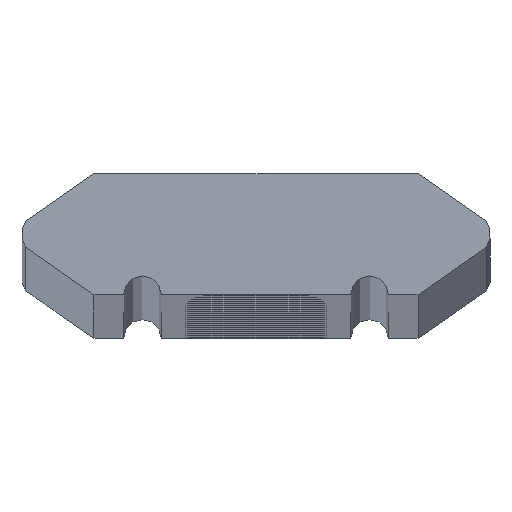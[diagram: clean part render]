
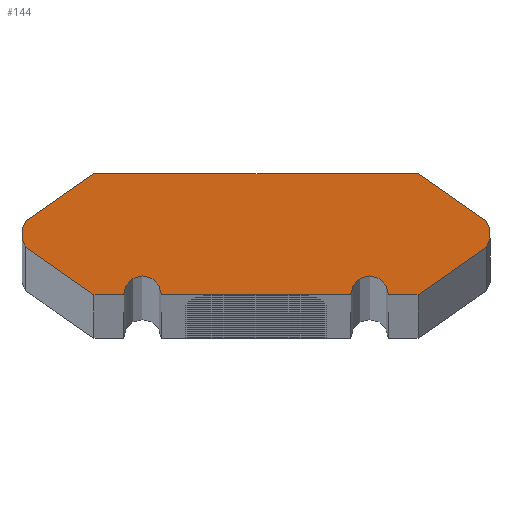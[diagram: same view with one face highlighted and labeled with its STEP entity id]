
A CAD part, top view. The second image highlights one B-rep face of the part: STEP entity #144.
In plain terms, the highlighted planar face has unit normal (0, 0, 1).
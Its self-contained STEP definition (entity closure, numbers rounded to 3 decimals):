
#144=ADVANCED_FACE('',(#403),#404,.T.);
#403=FACE_OUTER_BOUND('',#673,.T.);
#404=PLANE('',#674);
#673=EDGE_LOOP('',(#1093,#1094,#1095,#1096,#1097,#1098,#1099,#1100,#1101,#1102,#1103,#1104));
#674=AXIS2_PLACEMENT_3D('',#1105,#1106,#1107);
#1093=ORIENTED_EDGE('',*,*,#1190,.F.);
#1094=ORIENTED_EDGE('',*,*,#1285,.F.);
#1095=ORIENTED_EDGE('',*,*,#1286,.F.);
#1096=ORIENTED_EDGE('',*,*,#1287,.F.);
#1097=ORIENTED_EDGE('',*,*,#1288,.F.);
#1098=ORIENTED_EDGE('',*,*,#1281,.F.);
#1099=ORIENTED_EDGE('',*,*,#1289,.F.);
#1100=ORIENTED_EDGE('',*,*,#1290,.F.);
#1101=ORIENTED_EDGE('',*,*,#1291,.F.);
#1102=ORIENTED_EDGE('',*,*,#1292,.F.);
#1103=ORIENTED_EDGE('',*,*,#1293,.F.);
#1104=ORIENTED_EDGE('',*,*,#1214,.F.);
#1105=CARTESIAN_POINT('',(3.0,-1.6,0.0));
#1106=DIRECTION('',(0.0,0.0,1.0));
#1107=DIRECTION('',(0.,1.0,0.0));
#1190=EDGE_CURVE('',#1319,#1321,#1322,.T.);
#1214=EDGE_CURVE('',#1321,#1368,#1369,.T.);
#1281=EDGE_CURVE('',#1500,#1502,#1503,.T.);
#1285=EDGE_CURVE('',#1507,#1319,#1509,.T.);
#1286=EDGE_CURVE('',#1510,#1507,#1511,.T.);
#1287=EDGE_CURVE('',#1512,#1510,#1513,.T.);
#1288=EDGE_CURVE('',#1502,#1512,#1514,.T.);
#1289=EDGE_CURVE('',#1515,#1500,#1516,.T.);
#1290=EDGE_CURVE('',#1517,#1515,#1518,.T.);
#1291=EDGE_CURVE('',#1519,#1517,#1520,.T.);
#1292=EDGE_CURVE('',#1521,#1519,#1522,.T.);
#1293=EDGE_CURVE('',#1368,#1521,#1523,.T.);
#1319=VERTEX_POINT('',#1555);
#1321=VERTEX_POINT('',#1558);
#1322=CIRCLE('',#1559,0.5);
#1368=VERTEX_POINT('',#1607);
#1369=LINE('',#1608,#1609);
#1500=VERTEX_POINT('',#1742);
#1502=VERTEX_POINT('',#1745);
#1503=LINE('',#1746,#1747);
#1507=VERTEX_POINT('',#1753);
#1509=LINE('',#1756,#1757);
#1510=VERTEX_POINT('',#1758);
#1511=LINE('',#1759,#1760);
#1512=VERTEX_POINT('',#1761);
#1513=CIRCLE('',#1762,0.56);
#1514=LINE('',#1763,#1764);
#1515=VERTEX_POINT('',#1765);
#1516=LINE('',#1766,#1767);
#1517=VERTEX_POINT('',#1768);
#1518=CIRCLE('',#1769,0.56);
#1519=VERTEX_POINT('',#1770);
#1520=LINE('',#1771,#1772);
#1521=VERTEX_POINT('',#1773);
#1522=LINE('',#1774,#1775);
#1523=CIRCLE('',#1776,0.5);
#1555=CARTESIAN_POINT('',(3.5,-1.6,0.0));
#1558=CARTESIAN_POINT('',(2.5,-1.6,0.0));
#1559=AXIS2_PLACEMENT_3D('',#1824,#1825,#1826);
#1607=CARTESIAN_POINT('',(-2.5,-1.6,0.0));
#1608=CARTESIAN_POINT('',(2.5,-1.6,0.0));
#1609=VECTOR('',#1892,1.0);
#1742=CARTESIAN_POINT('',(-4.28,1.6,0.0));
#1745=CARTESIAN_POINT('',(4.28,1.6,0.0));
#1746=CARTESIAN_POINT('',(-4.28,1.6,0.0));
#1747=VECTOR('',#2085,1.0);
#1753=CARTESIAN_POINT('',(4.28,-1.6,0.0));
#1756=CARTESIAN_POINT('',(4.28,-1.6,0.0));
#1757=VECTOR('',#2089,1.0);
#1758=CARTESIAN_POINT('',(6.081,-0.339,0.0));
#1759=CARTESIAN_POINT('',(6.081,-0.339,0.0));
#1760=VECTOR('',#2090,1.0);
#1761=CARTESIAN_POINT('',(6.081,0.339,0.0));
#1762=AXIS2_PLACEMENT_3D('',#2091,#2092,#2093);
#1763=CARTESIAN_POINT('',(4.28,1.6,0.0));
#1764=VECTOR('',#2094,1.0);
#1765=CARTESIAN_POINT('',(-6.081,0.339,0.0));
#1766=CARTESIAN_POINT('',(-6.081,0.339,0.0));
#1767=VECTOR('',#2095,1.0);
#1768=CARTESIAN_POINT('',(-6.081,-0.339,0.0));
#1769=AXIS2_PLACEMENT_3D('',#2096,#2097,#2098);
#1770=CARTESIAN_POINT('',(-4.28,-1.6,0.0));
#1771=CARTESIAN_POINT('',(-4.28,-1.6,0.0));
#1772=VECTOR('',#2099,1.0);
#1773=CARTESIAN_POINT('',(-3.5,-1.6,0.0));
#1774=CARTESIAN_POINT('',(-3.5,-1.6,0.0));
#1775=VECTOR('',#2100,1.0);
#1776=AXIS2_PLACEMENT_3D('',#2101,#2102,#2103);
#1824=CARTESIAN_POINT('',(3.0,-1.6,0.0));
#1825=DIRECTION('',(0.0,0.0,1.0));
#1826=DIRECTION('',(0.,-1.0,0.0));
#1892=DIRECTION('',(-1.0,0.,0.0));
#2085=DIRECTION('',(1.0,0.,0.0));
#2089=DIRECTION('',(-1.0,0.,0.0));
#2090=DIRECTION('',(-0.819,-0.574,0.0));
#2091=CARTESIAN_POINT('',(5.635,0.,0.0));
#2092=DIRECTION('',(0.0,0.0,-1.0));
#2093=DIRECTION('',(0.,-1.0,0.0));
#2094=DIRECTION('',(0.819,-0.574,0.0));
#2095=DIRECTION('',(0.819,0.574,0.0));
#2096=CARTESIAN_POINT('',(-5.635,0.,0.0));
#2097=DIRECTION('',(0.0,0.0,-1.0));
#2098=DIRECTION('',(0.,-1.0,0.0));
#2099=DIRECTION('',(-0.819,0.574,0.0));
#2100=DIRECTION('',(-1.0,0.,0.0));
#2101=CARTESIAN_POINT('',(-3.0,-1.6,0.0));
#2102=DIRECTION('',(0.0,0.0,1.0));
#2103=DIRECTION('',(0.,-1.0,0.0));
